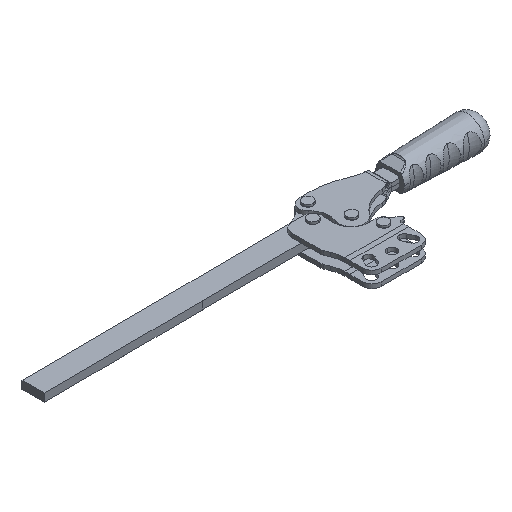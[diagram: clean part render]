
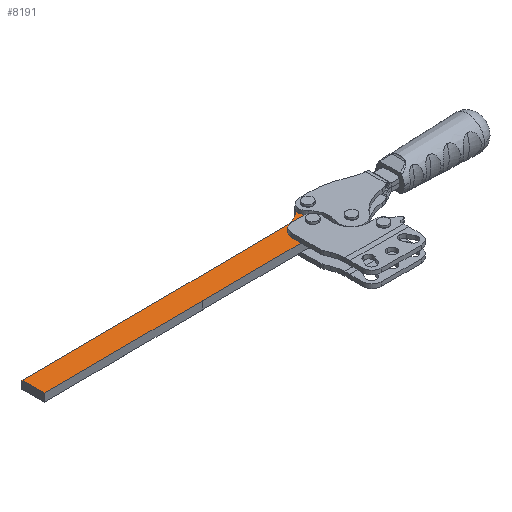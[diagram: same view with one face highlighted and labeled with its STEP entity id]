
A CAD part, isometric view. The second image highlights one B-rep face of the part: STEP entity #8191.
In plain terms, the highlighted planar face has unit normal (0, 0, 1).
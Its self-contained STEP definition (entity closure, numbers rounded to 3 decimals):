
#24 = CARTESIAN_POINT ( 'NONE',  ( 0., 0., 5. ) ) ;
#77 = EDGE_CURVE ( 'NONE', #13544, #2897, #12088, .T. ) ;
#214 = AXIS2_PLACEMENT_3D ( 'NONE', #17569, #6094, #15702 ) ;
#337 = LINE ( 'NONE', #4494, #10588 ) ;
#515 = DIRECTION ( 'NONE',  ( 0., 1., 0. ) ) ;
#623 = DIRECTION ( 'NONE',  ( 1., 0., 0. ) ) ;
#671 = CIRCLE ( 'NONE', #17733, 5.866 ) ;
#1726 = DIRECTION ( 'NONE',  ( 0., 0., 1. ) ) ;
#1807 = ORIENTED_EDGE ( 'NONE', *, *, #16363, .F. ) ;
#1818 = DIRECTION ( 'NONE',  ( 1., 0.006, 0. ) ) ;
#1990 = PLANE ( 'NONE',  #12015 ) ;
#2163 = CARTESIAN_POINT ( 'NONE',  ( -16.854, -2.879, 5. ) ) ;
#2226 = CARTESIAN_POINT ( 'NONE',  ( -7.926, -11.052, 5. ) ) ;
#2376 = VERTEX_POINT ( 'NONE', #6435 ) ;
#2557 = ORIENTED_EDGE ( 'NONE', *, *, #3859, .T. ) ;
#2574 = CARTESIAN_POINT ( 'NONE',  ( -7.926, -11.052, 5. ) ) ;
#2897 = VERTEX_POINT ( 'NONE', #14107 ) ;
#3075 = ORIENTED_EDGE ( 'NONE', *, *, #11529, .F. ) ;
#3323 = DIRECTION ( 'NONE',  ( 1., 0., 0. ) ) ;
#3455 = EDGE_CURVE ( 'NONE', #2897, #7618, #7173, .T. ) ;
#3859 = EDGE_CURVE ( 'NONE', #2376, #11716, #6050, .T. ) ;
#4104 = EDGE_CURVE ( 'NONE', #13544, #2376, #13682, .T. ) ;
#4254 = VECTOR ( 'NONE', #9356, 1000. ) ;
#4481 = CARTESIAN_POINT ( 'NONE',  ( 2., 0., 5. ) ) ;
#4494 = CARTESIAN_POINT ( 'NONE',  ( 4.767, -3.419, 5. ) ) ;
#4519 = CARTESIAN_POINT ( 'NONE',  ( 0., 0., 5. ) ) ;
#4544 = ORIENTED_EDGE ( 'NONE', *, *, #17281, .T. ) ;
#4546 = DIRECTION ( 'NONE',  ( 1., 0., 0. ) ) ;
#4558 = VECTOR ( 'NONE', #7881, 1000. ) ;
#4695 = FACE_BOUND ( 'NONE', #10563, .T. ) ;
#5254 = CARTESIAN_POINT ( 'NONE',  ( -183.915, -18.082, 5. ) ) ;
#5361 = DIRECTION ( 'NONE',  ( 0., 0., 1. ) ) ;
#5425 = VERTEX_POINT ( 'NONE', #2163 ) ;
#5648 = CARTESIAN_POINT ( 'NONE',  ( -16.985, 12.12, 5. ) ) ;
#5723 = AXIS2_PLACEMENT_3D ( 'NONE', #11314, #14493, #15840 ) ;
#5738 = VERTEX_POINT ( 'NONE', #12672 ) ;
#5874 = FACE_OUTER_BOUND ( 'NONE', #11316, .T. ) ;
#5884 = CARTESIAN_POINT ( 'NONE',  ( -184.001, -4.084, 5. ) ) ;
#6050 = LINE ( 'NONE', #8500, #12368 ) ;
#6094 = DIRECTION ( 'NONE',  ( 0., 0., 1. ) ) ;
#6203 = LINE ( 'NONE', #10381, #14374 ) ;
#6301 = CIRCLE ( 'NONE', #5723, 2. ) ;
#6343 = AXIS2_PLACEMENT_3D ( 'NONE', #2226, #7750, #3323 ) ;
#6390 = CARTESIAN_POINT ( 'NONE',  ( -183.915, -18.082, 5. ) ) ;
#6435 = CARTESIAN_POINT ( 'NONE',  ( -83.917, -17.465, 5. ) ) ;
#6842 = AXIS2_PLACEMENT_3D ( 'NONE', #12684, #15744, #623 ) ;
#6911 = DIRECTION ( 'NONE',  ( 0., 0., 1. ) ) ;
#6989 = VECTOR ( 'NONE', #1818, 1000. ) ;
#7061 = ORIENTED_EDGE ( 'NONE', *, *, #13600, .F. ) ;
#7102 = CARTESIAN_POINT ( 'NONE',  ( -4.767, 3.419, 5. ) ) ;
#7173 = LINE ( 'NONE', #5884, #6989 ) ;
#7203 = ORIENTED_EDGE ( 'NONE', *, *, #17506, .F. ) ;
#7331 = EDGE_LOOP ( 'NONE', ( #7203, #1807 ) ) ;
#7618 = VERTEX_POINT ( 'NONE', #17883 ) ;
#7750 = DIRECTION ( 'NONE',  ( 0., 0., 1. ) ) ;
#7786 = CARTESIAN_POINT ( 'NONE',  ( 0.024, -2.732, 5. ) ) ;
#7881 = DIRECTION ( 'NONE',  ( 1., 0.006, 0. ) ) ;
#8068 = CARTESIAN_POINT ( 'NONE',  ( 4.767, -3.419, 5. ) ) ;
#8105 = CARTESIAN_POINT ( 'NONE',  ( -7.875, -16.917, 5. ) ) ;
#8170 = ORIENTED_EDGE ( 'NONE', *, *, #3455, .F. ) ;
#8191 = ADVANCED_FACE ( 'NONE', ( #5874, #4695, #16851 ), #1990, .T. ) ;
#8304 = DIRECTION ( 'NONE',  ( 0.583, 0.813, 0. ) ) ;
#8500 = CARTESIAN_POINT ( 'NONE',  ( 0.121, -16.86, 5. ) ) ;
#9356 = DIRECTION ( 'NONE',  ( -0.006, 1., 0. ) ) ;
#9481 = VECTOR ( 'NONE', #12133, 1000. ) ;
#9977 = VERTEX_POINT ( 'NONE', #4481 ) ;
#9992 = ORIENTED_EDGE ( 'NONE', *, *, #4104, .T. ) ;
#10038 = DIRECTION ( 'NONE',  ( 1., 0.007, 0. ) ) ;
#10263 = CARTESIAN_POINT ( 'NONE',  ( -3.159, -14.47, 5. ) ) ;
#10289 = EDGE_CURVE ( 'NONE', #11716, #16660, #671, .T. ) ;
#10312 = ORIENTED_EDGE ( 'NONE', *, *, #14234, .T. ) ;
#10324 = CIRCLE ( 'NONE', #6842, 2. ) ;
#10381 = CARTESIAN_POINT ( 'NONE',  ( -84.003, 0., 5. ) ) ;
#10563 = EDGE_LOOP ( 'NONE', ( #7061, #11778 ) ) ;
#10588 = VECTOR ( 'NONE', #8304, 1000. ) ;
#11279 = VERTEX_POINT ( 'NONE', #16645 ) ;
#11314 = CARTESIAN_POINT ( 'NONE',  ( 0., 0., 5. ) ) ;
#11316 = EDGE_LOOP ( 'NONE', ( #4544, #3075, #8170, #16520, #9992, #2557, #11378, #11674, #10312, #17507 ) ) ;
#11378 = ORIENTED_EDGE ( 'NONE', *, *, #10289, .T. ) ;
#11467 = EDGE_CURVE ( 'NONE', #16660, #14502, #337, .T. ) ;
#11529 = EDGE_CURVE ( 'NONE', #7618, #11279, #6203, .T. ) ;
#11674 = ORIENTED_EDGE ( 'NONE', *, *, #11467, .T. ) ;
#11716 = VERTEX_POINT ( 'NONE', #8105 ) ;
#11778 = ORIENTED_EDGE ( 'NONE', *, *, #11967, .F. ) ;
#11967 = EDGE_CURVE ( 'NONE', #17294, #5738, #14966, .T. ) ;
#12015 = AXIS2_PLACEMENT_3D ( 'NONE', #4519, #1726, #14309 ) ;
#12088 = LINE ( 'NONE', #17617, #4254 ) ;
#12126 = CIRCLE ( 'NONE', #6343, 2. ) ;
#12133 = DIRECTION ( 'NONE',  ( -1., -0.009, 0. ) ) ;
#12368 = VECTOR ( 'NONE', #10038, 1000. ) ;
#12543 = DIRECTION ( 'NONE',  ( 0., 0., 1. ) ) ;
#12672 = CARTESIAN_POINT ( 'NONE',  ( -9.926, -11.052, 5. ) ) ;
#12684 = CARTESIAN_POINT ( 'NONE',  ( 0., 0., 5. ) ) ;
#12719 = AXIS2_PLACEMENT_3D ( 'NONE', #5648, #12543, #16806 ) ;
#12835 = VERTEX_POINT ( 'NONE', #7102 ) ;
#13017 = CIRCLE ( 'NONE', #15339, 5.866 ) ;
#13544 = VERTEX_POINT ( 'NONE', #6390 ) ;
#13587 = CARTESIAN_POINT ( 'NONE',  ( -5.926, -11.052, 5. ) ) ;
#13600 = EDGE_CURVE ( 'NONE', #5738, #17294, #12126, .T. ) ;
#13682 = LINE ( 'NONE', #5254, #4558 ) ;
#13844 = EDGE_CURVE ( 'NONE', #5425, #12835, #15894, .T. ) ;
#14107 = CARTESIAN_POINT ( 'NONE',  ( -184.001, -4.084, 5. ) ) ;
#14234 = EDGE_CURVE ( 'NONE', #14502, #12835, #13017, .T. ) ;
#14309 = DIRECTION ( 'NONE',  ( 1., 0., 0. ) ) ;
#14374 = VECTOR ( 'NONE', #515, 1000. ) ;
#14493 = DIRECTION ( 'NONE',  ( 0., 0., 1. ) ) ;
#14502 = VERTEX_POINT ( 'NONE', #8068 ) ;
#14860 = LINE ( 'NONE', #7786, #9481 ) ;
#14966 = CIRCLE ( 'NONE', #214, 2. ) ;
#15339 = AXIS2_PLACEMENT_3D ( 'NONE', #24, #6911, #4546 ) ;
#15702 = DIRECTION ( 'NONE',  ( 1., 0., 0. ) ) ;
#15744 = DIRECTION ( 'NONE',  ( 0., 0., 1. ) ) ;
#15840 = DIRECTION ( 'NONE',  ( 1., 0., 0. ) ) ;
#15866 = VERTEX_POINT ( 'NONE', #16499 ) ;
#15894 = CIRCLE ( 'NONE', #12719, 15. ) ;
#16363 = EDGE_CURVE ( 'NONE', #9977, #15866, #10324, .T. ) ;
#16499 = CARTESIAN_POINT ( 'NONE',  ( -2., 0., 5. ) ) ;
#16520 = ORIENTED_EDGE ( 'NONE', *, *, #77, .F. ) ;
#16645 = CARTESIAN_POINT ( 'NONE',  ( -84.003, -3.465, 5. ) ) ;
#16660 = VERTEX_POINT ( 'NONE', #10263 ) ;
#16806 = DIRECTION ( 'NONE',  ( 1., 0., 0. ) ) ;
#16851 = FACE_BOUND ( 'NONE', #7331, .T. ) ;
#17281 = EDGE_CURVE ( 'NONE', #5425, #11279, #14860, .T. ) ;
#17294 = VERTEX_POINT ( 'NONE', #13587 ) ;
#17506 = EDGE_CURVE ( 'NONE', #15866, #9977, #6301, .T. ) ;
#17507 = ORIENTED_EDGE ( 'NONE', *, *, #13844, .F. ) ;
#17569 = CARTESIAN_POINT ( 'NONE',  ( -7.926, -11.052, 5. ) ) ;
#17617 = CARTESIAN_POINT ( 'NONE',  ( -183.915, -18.082, 5. ) ) ;
#17733 = AXIS2_PLACEMENT_3D ( 'NONE', #2574, #5361, #17878 ) ;
#17878 = DIRECTION ( 'NONE',  ( 1., 0., 0. ) ) ;
#17883 = CARTESIAN_POINT ( 'NONE',  ( -84.003, -3.467, 5. ) ) ;
